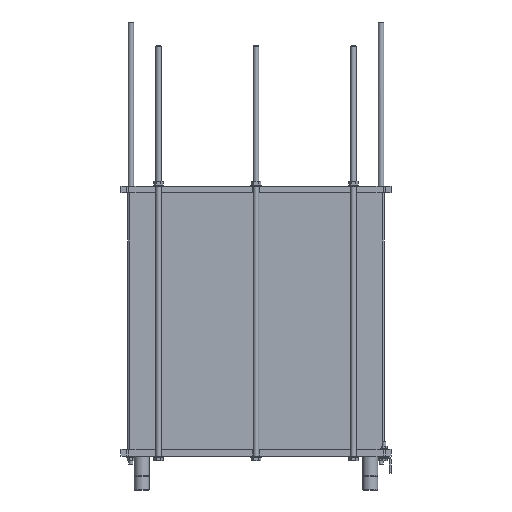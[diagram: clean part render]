
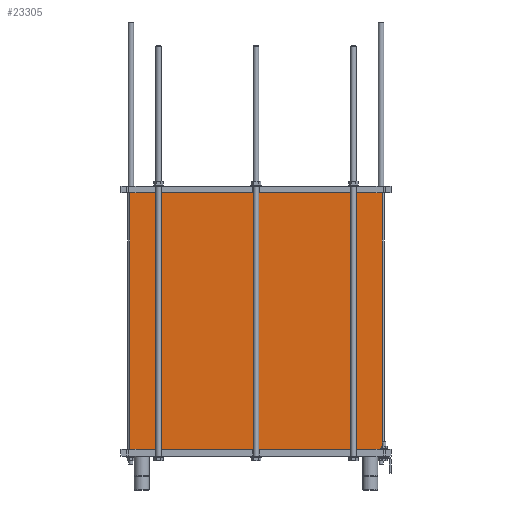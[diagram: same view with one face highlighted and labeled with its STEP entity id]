
A CAD part, left-side view. The second image highlights one B-rep face of the part: STEP entity #23305.
In plain terms, the highlighted planar face has unit normal (-1, 0, 0).
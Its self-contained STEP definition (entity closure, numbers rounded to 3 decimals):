
#15365=CARTESIAN_POINT('',(-62.5,-370.0,20.0));
#15366=VERTEX_POINT('',#15365);
#15374=CARTESIAN_POINT('',(-62.5,370.0,20.0));
#15375=VERTEX_POINT('',#15374);
#15376=CARTESIAN_POINT('',(-62.5,-370.0,20.0));
#15377=DIRECTION('',(0.0,1.0,0.0));
#15378=VECTOR('',#15377,740.0);
#15379=LINE('',#15376,#15378);
#15380=EDGE_CURVE('',#15366,#15375,#15379,.T.);
#22949=CARTESIAN_POINT('',(-62.5,370.0,770.0));
#22950=VERTEX_POINT('',#22949);
#22958=CARTESIAN_POINT('',(-62.5,-370.0,770.0));
#22959=VERTEX_POINT('',#22958);
#22960=CARTESIAN_POINT('',(-62.5,-370.0,770.0));
#22961=DIRECTION('',(0.0,1.0,0.0));
#22962=VECTOR('',#22961,740.0);
#22963=LINE('',#22960,#22962);
#22964=EDGE_CURVE('',#22959,#22950,#22963,.T.);
#23278=CARTESIAN_POINT('',(-62.5,-370.0,20.0));
#23279=DIRECTION('',(0.0,0.0,1.0));
#23280=VECTOR('',#23279,750.0);
#23281=LINE('',#23278,#23280);
#23282=EDGE_CURVE('',#15366,#22959,#23281,.T.);
#23289=CARTESIAN_POINT('',(-62.5,-370.0,20.0));
#23290=DIRECTION('',(-1.0,0.0,0.0));
#23291=DIRECTION('',(0.0,0.0,1.0));
#23292=AXIS2_PLACEMENT_3D('',#23289,#23290,#23291);
#23293=PLANE('',#23292);
#23294=ORIENTED_EDGE('',*,*,#22964,.T.);
#23295=CARTESIAN_POINT('',(-62.5,370.0,20.0));
#23296=DIRECTION('',(0.0,0.0,1.0));
#23297=VECTOR('',#23296,750.0);
#23298=LINE('',#23295,#23297);
#23299=EDGE_CURVE('',#15375,#22950,#23298,.T.);
#23300=ORIENTED_EDGE('',*,*,#23299,.F.);
#23301=ORIENTED_EDGE('',*,*,#15380,.F.);
#23302=ORIENTED_EDGE('',*,*,#23282,.T.);
#23303=EDGE_LOOP('',(#23294,#23300,#23301,#23302));
#23304=FACE_OUTER_BOUND('',#23303,.T.);
#23305=ADVANCED_FACE('',(#23304),#23293,.T.);
